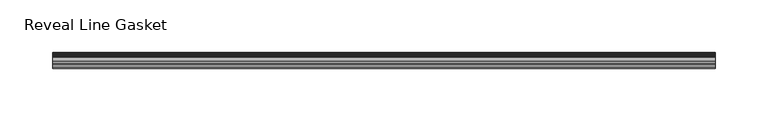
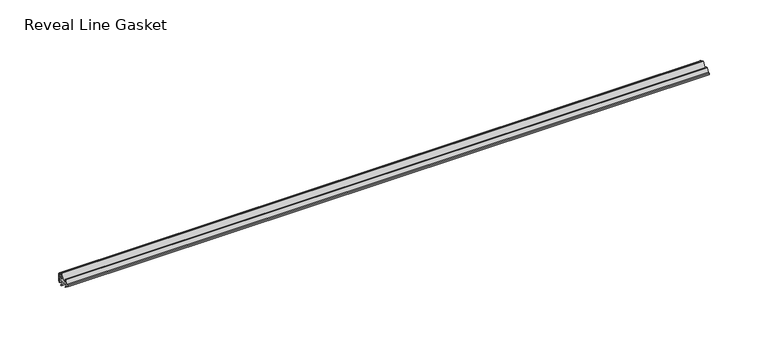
"""IFC4 building model written with IfcOpenShell, lengths in millimetres: proxy geometry, Accessories-Teknion-FHGR-AI_Healthcare-Reveal_Line_Gasket(Horizontal)-R2022 : Reveal Line Gasket."""

from ifc_helpers import new_model, si_unit, point, frame, frame_2d, origin, place, context, project, spatial, polyline, circle_curve, trimmed, segment, composite_curve, outline, extrude, source, transform, mapped, element, save


def reveal_line_gasket_983f5021(model_context):
    return source(origin(), model_context, "Body", "SweptSolid", [
        extrude(outline(composite_curve([segment(polyline([(7.6326998, 1603.2), (7.6326998, 1597.2), (7.4091917, 1596.2445073), (6.8813059, 1595.3115316)]), True, "CONTINUOUS"), segment(trimmed(circle_curve(frame_2d((6.5243141, 1595.5135207)), 0.4101739), [point((6.8813059, 1595.3115316))], [point((6.1246704, 1595.6058653))], False, "CARTESIAN"), True, "CONTINUOUS"), segment(polyline([(6.1246704, 1595.6058653), (6.3626997, 1597.3020914), (6.3626997, 1599.3345473)]), True, "CONTINUOUS"), segment(trimmed(circle_curve(frame_2d((5.6959605, 1598.9180742)), 0.786124), [point((6.3626997, 1599.3345473))], [point((5.0926996, 1599.422125))], True, "CARTESIAN"), True, "CONTINUOUS"), segment(polyline([(5.0926996, 1599.422125), (0.7492996, 1599.422125), (3.7293824, 1594.2604705)]), True, "CONTINUOUS"), segment(trimmed(circle_curve(frame_2d((3.3132479, 1594.1950239)), 0.4212495), [point((3.7293824, 1594.2604705))], [point((3.0485022, 1593.8673642))], False, "CARTESIAN"), True, "CONTINUOUS"), segment(polyline([(3.0485022, 1593.8673642), (-0.5742594, 1599.422125), (-4.8262978, 1599.422125), (-3.1660374, 1596.5464703)]), True, "CONTINUOUS"), segment(trimmed(circle_curve(frame_2d((-3.5978728, 1596.4881145)), 0.4357605), [point((-3.1660374, 1596.5464703))], [point((-3.864328, 1596.1433119))], False, "CARTESIAN"), True, "CONTINUOUS"), segment(polyline([(-3.864328, 1596.1433119), (-6.1944059, 1599.422125), (-7.6326998, 1599.422125), (-7.6326998, 1600.977875), (-6.1944059, 1600.977875), (-3.864328, 1604.2566881)]), True, "CONTINUOUS"), segment(trimmed(circle_curve(frame_2d((-3.5978728, 1603.9118855)), 0.4357605), [point((-3.864328, 1604.2566881))], [point((-3.1660374, 1603.8535297))], False, "CARTESIAN"), True, "CONTINUOUS"), segment(polyline([(-3.1660374, 1603.8535297), (-4.8262978, 1600.977875), (-0.5742594, 1600.977875), (3.0485022, 1606.5326358)]), True, "CONTINUOUS"), segment(trimmed(circle_curve(frame_2d((3.3132479, 1606.2049761)), 0.4212495), [point((3.0485022, 1606.5326358))], [point((3.7293824, 1606.1395295))], False, "CARTESIAN"), True, "CONTINUOUS"), segment(polyline([(3.7293824, 1606.1395295), (0.7492996, 1600.977875), (5.0926996, 1600.977875)]), True, "CONTINUOUS"), segment(trimmed(circle_curve(frame_2d((5.6959605, 1601.4819258)), 0.786124), [point((5.0926996, 1600.977875))], [point((6.3626997, 1601.0654527))], True, "CARTESIAN"), True, "CONTINUOUS"), segment(polyline([(6.3626997, 1601.0654527), (6.3626997, 1603.0979086), (6.1246704, 1604.7941347)]), True, "CONTINUOUS"), segment(trimmed(circle_curve(frame_2d((6.5243141, 1604.8864793)), 0.4101739), [point((6.1246704, 1604.7941347))], [point((6.8813059, 1605.0884684))], False, "CARTESIAN"), True, "CONTINUOUS"), segment(polyline([(6.8813059, 1605.0884684), (7.4091917, 1604.1554927), (7.6326998, 1603.2)]), True, "CONTINUOUS")], self_intersect=False)), frame((-315.6204, 0.0, 0.0), z_axis=(1.0, 0.0, 0.0), x_axis=(0.0, 1.0, 0.0)), (0.0, 0.0, 1.0), 631.2408),
    ])


if __name__ == "__main__":
    model = new_model("IFC4")
    model_context = context("Model", 3, world=origin())
    ifc_project = project(units=[si_unit("LENGTHUNIT", "METRE", prefix="MILLI")], contexts=[model_context])
    site = spatial("IfcSite", under=ifc_project)
    building = spatial("IfcBuilding", under=site)
    placement = place(None, origin())
    reveal_line_gasket_shape = reveal_line_gasket_983f5021(model_context)
    element("IfcBuildingElementProxy", 1, Name="Accessories-Teknion-FHGR-AI_Healthcare-Reveal_Line_Gasket(Horizontal)-R2022 : Reveal Line Gasket", ObjectType="Accessories-Teknion-FHGR-AI_Healthcare-Reveal_Line_Gasket(Horizontal)-R2022 : Reveal Line Gasket", at=placement, inside=building, context=model_context, shape_type="MappedRepresentation", body=[
        mapped(reveal_line_gasket_shape, transform((0.0, 0.0, 0.0), x_axis=(1.0, 0.0, 0.0), y_axis=(0.0, 1.0, 0.0), z_axis=(0.0, 0.0, 1.0))),
    ])
    save(model, "model.ifc")
